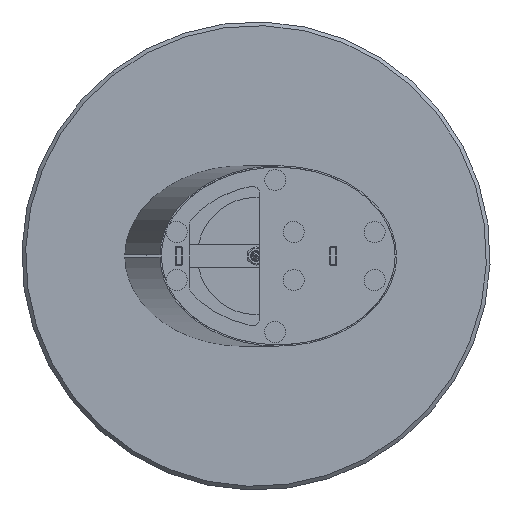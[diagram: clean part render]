
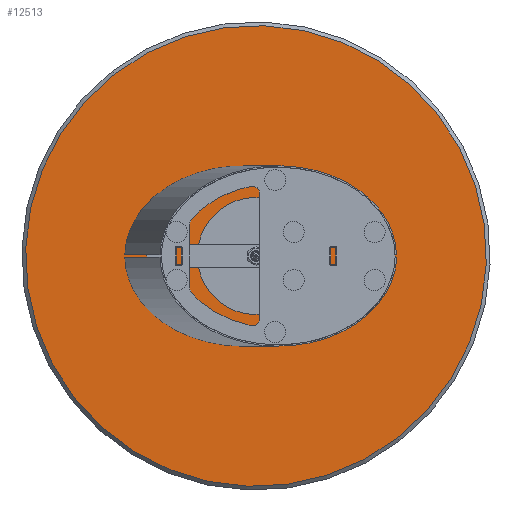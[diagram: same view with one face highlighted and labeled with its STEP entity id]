
A CAD part, front view. The second image highlights one B-rep face of the part: STEP entity #12513.
In plain terms, the highlighted planar face has unit normal (0, -1, 0).
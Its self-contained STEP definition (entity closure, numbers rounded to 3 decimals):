
#326 = CARTESIAN_POINT ( 'NONE',  ( 0., 0., 0. ) ) ;
#2036 = DIRECTION ( 'NONE',  ( 0., 0., -1. ) ) ;
#2778 = CARTESIAN_POINT ( 'NONE',  ( 0., 0., 0. ) ) ;
#3019 = CARTESIAN_POINT ( 'NONE',  ( 0., 0., 0. ) ) ;
#3201 = CARTESIAN_POINT ( 'NONE',  ( 0., 0., 492. ) ) ;
#3332 = AXIS2_PLACEMENT_3D ( 'NONE', #3019, #10983, #2036 ) ;
#3691 = DIRECTION ( 'NONE',  ( 0., -1., 0. ) ) ;
#3923 = PLANE ( 'NONE',  #3332 ) ;
#4104 = EDGE_CURVE ( 'NONE', #4771, #12855, #5960, .T. ) ;
#4771 = VERTEX_POINT ( 'NONE', #3201 ) ;
#4981 = FACE_OUTER_BOUND ( 'NONE', #7897, .T. ) ;
#5594 = DIRECTION ( 'NONE',  ( 0., 0., -1. ) ) ;
#5760 = AXIS2_PLACEMENT_3D ( 'NONE', #2778, #3691, #5594 ) ;
#5844 = EDGE_CURVE ( 'NONE', #12855, #4771, #10335, .T. ) ;
#5960 = CIRCLE ( 'NONE', #7835, 492. ) ;
#7127 = ORIENTED_EDGE ( 'NONE', *, *, #4104, .T. ) ;
#7835 = AXIS2_PLACEMENT_3D ( 'NONE', #326, #8300, #12260 ) ;
#7897 = EDGE_LOOP ( 'NONE', ( #7127, #8301 ) ) ;
#8300 = DIRECTION ( 'NONE',  ( 0., -1., 0. ) ) ;
#8301 = ORIENTED_EDGE ( 'NONE', *, *, #5844, .T. ) ;
#10335 = CIRCLE ( 'NONE', #5760, 492. ) ;
#10983 = DIRECTION ( 'NONE',  ( 0., -1., 0. ) ) ;
#12260 = DIRECTION ( 'NONE',  ( 0., 0., -1. ) ) ;
#12513 = ADVANCED_FACE ( 'NONE', ( #4981 ), #3923, .T. ) ;
#12660 = CARTESIAN_POINT ( 'NONE',  ( 0., 0., -492. ) ) ;
#12855 = VERTEX_POINT ( 'NONE', #12660 ) ;
